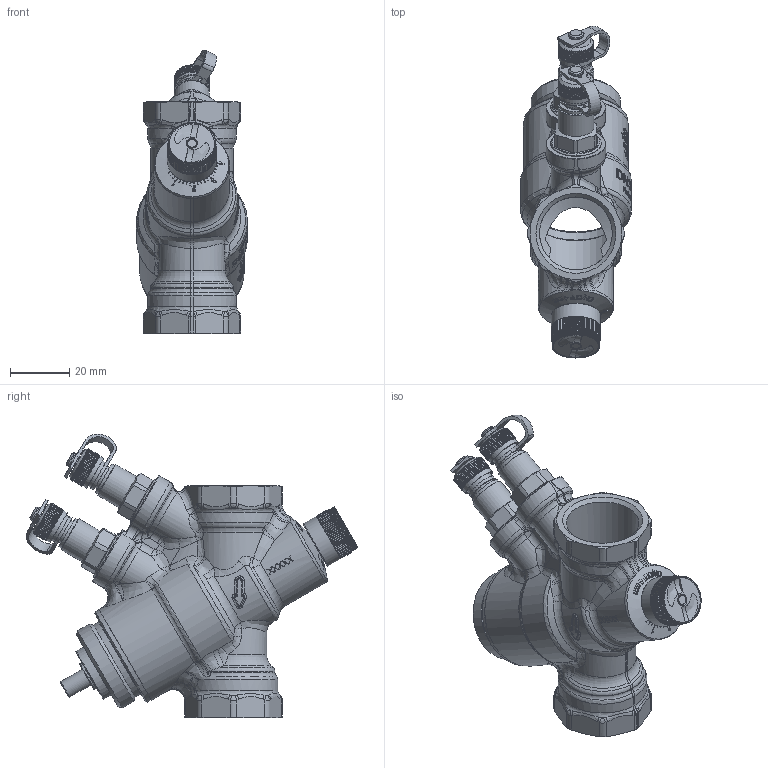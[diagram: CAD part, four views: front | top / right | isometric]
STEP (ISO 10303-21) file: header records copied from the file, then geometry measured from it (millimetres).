
FILE_DESCRIPTION(/* description */ ('Ventil on/off DN20 M/M P/T High'),/* implementation_level */ '2;1');
FILE_NAME(/* name */ 'C:\Users\cbr\Desktop\01-0252.stp',/* time_stamp */ '2019-10-23T09:39:41+02:00',/* author */ ('cbr'),/* organization */ (''),/* preprocessor_version */ 'ST-DEVELOPER v17.2',/* originating_system */ 'Autodesk Inventor 2019',/* authorisation */ '');
FILE_SCHEMA (('AUTOMOTIVE_DESIGN { 1 0 10303 214 3 1 1 }'));
Length unit declared in the file: millimetre
Products named in the file (33): 01-0252; 59778; 901310; 69706; 75609; 68936; 73039-90778; 66591; 66083; 80502; 79168-901310; 73160-901310; 73047; 66592; 80503; 73039-01-02XX; 75315; 67467; 79169; 75612; 90338; 73040 for 90329; 75344_monteret; 73075 for 92005; 90339; 67460; 66588; 67055; 73040 for 67055; 75145; 75345_monteret; 73075 for 90308; 91707_01-0252
Assembly tree (40 placements, depth 3):
  01-0252
    59778
    901310
      69706
      75609
      68936
      73039-90778  x2
      66591
      66083
      80502
      79168-901310
      73160-901310
      73047
      66592
      79169
    80503
    73039-01-02XX
    75315
    67467
    79169
    75612
    90338
      67460
      66588
      67055
      73040 for 90329
      75145  x2
      75344_monteret
      73075 for 92005
    90339
      67460
      66588
      67055
      73040 for 67055
      75145  x2
      75345_monteret
      73075 for 90308
    91707_01-0252
Bounding box: 37.35 x 111.68 x 95.54 mm (x, y, z)
Volume: 54437.8 mm3; surface area: 53508.8 mm2
Topology: 131 solids, 131 shells, 3712 faces, 9904 edges, 6487 vertices
Faces by surface type: plane 1609, bspline 981, cylinder 778, cone 214, torus 106, sphere 24
Full cylindrical faces by diameter (mm): 2 x1, 2.9 x2, 3 x7, 3.1 x2, 3.2 x2, 3.3 x1, 4 x2, 4.3 x2, 5 x6, 6 x3, 6.1 x2, 6.2 x5, 6.3 x1, 7 x3, 7.4 x1, 7.5 x2, 8 x1, 8.3 x2, 8.566 x2, 9 x2, 9.15 x2, 9.2 x2, 9.3 x1, 9.5 x1, 9.6 x2, 9.728 x2, 10 x3, 11 x4, 11.5 x3, 11.7 x4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
Entity records: 141417 total; most frequent: CARTESIAN_POINT 63895, ORIENTED_EDGE 17512, DIRECTION 13202, EDGE_CURVE 8756, VERTEX_POINT 5738, AXIS2_PLACEMENT_3D 4692, LINE 3818, VECTOR 3818
